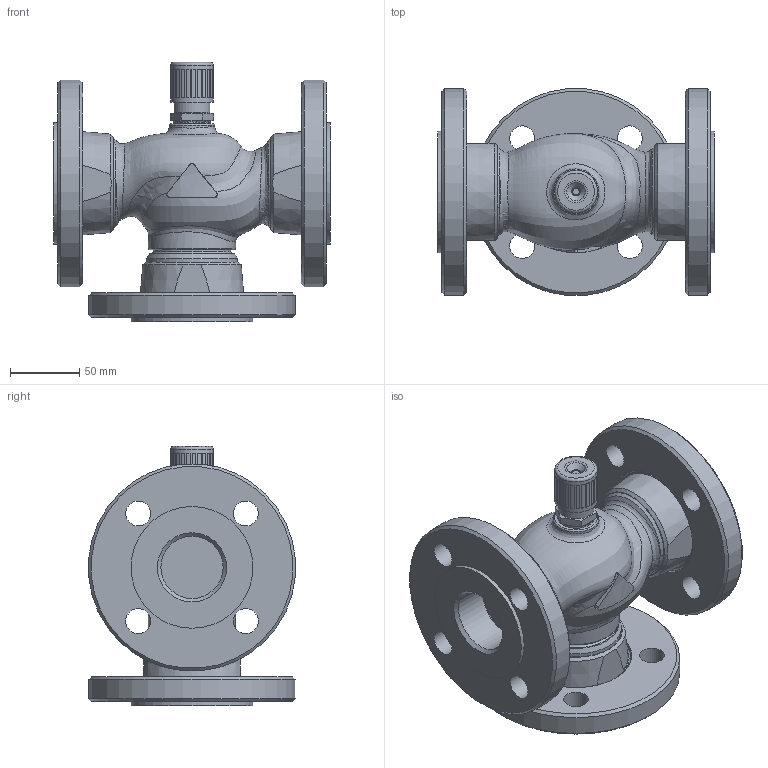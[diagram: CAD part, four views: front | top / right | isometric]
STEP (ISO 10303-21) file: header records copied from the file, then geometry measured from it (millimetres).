
FILE_DESCRIPTION(/* description */ (''),/* implementation_level */ '2;1');
FILE_NAME(/* name */ 'rv111r_dn40_3_F.stp',/* time_stamp */ '2012-01-25T07:39:32+01:00',/* author */ ('KLIMES'),/* organization */ ('LDM'),/* preprocessor_version */ 'ST-DEVELOPER v11',/* originating_system */ 'SIEMENS PLM Software NX 7.0',/* authorisation */ '');
FILE_SCHEMA (('CONFIG_CONTROL_DESIGN'));
Length unit declared in the file: millimetre
Products named in the file (1): klimF827ccbs
Bounding box: 200 x 149.43 x 187.5 mm (x, y, z)
Volume: 1637481.9 mm3; surface area: 225664.2 mm2
Topology: 5 solids, 5 shells, 326 faces, 747 edges, 478 vertices
Faces by surface type: plane 151, cone 76, cylinder 55, bspline 26, torus 18
Full cylindrical faces by diameter (mm): 8 x1, 18 x12, 23.4 x1, 24.117 x1, 26 x1, 26.5 x1, 30.8 x1, 33 x1, 45 x3, 56 x1, 62.752 x3, 63 x1, 65.71 x3, 66 x3, 88 x3, 150 x3
Entity records: 14734 total; most frequent: CARTESIAN_POINT 7865, DIRECTION 1410, ORIENTED_EDGE 1238, EDGE_CURVE 619, AXIS2_PLACEMENT_3D 588, EDGE_LOOP 495, VERTEX_POINT 442, ADVANCED_FACE 326
